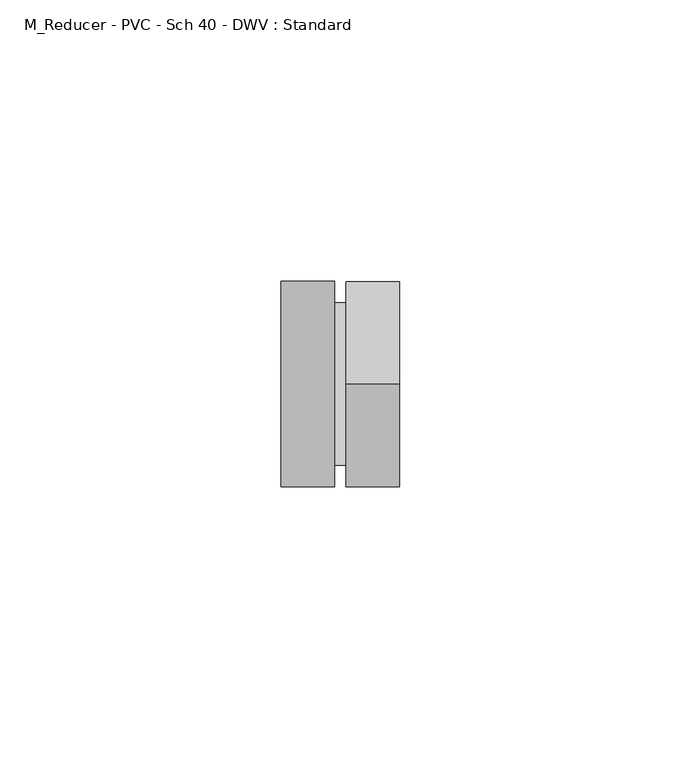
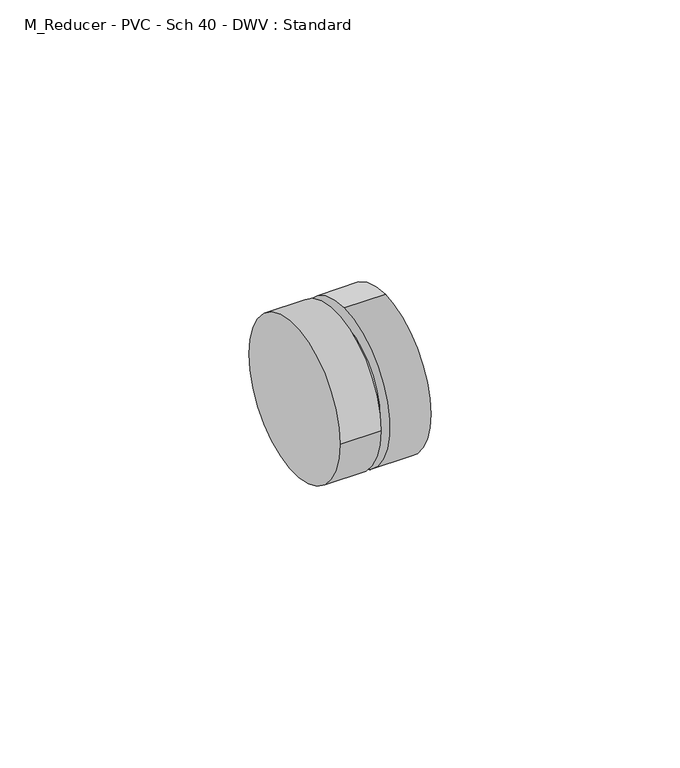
"""IFC4 building model written with IfcOpenShell, lengths in millimetres: pipe fitting geometry, M_Reducer - PVC - Sch 40 - DWV : Standard."""

from ifc_helpers import new_model, si_unit, frame, origin, place, context, project, spatial, polyline, circle_curve, source, transform, mapped, element, save
from ifc_brep_helpers import plane_surface, cylinder_surface, revolved_surface, advanced_brep


def m_reducer_pvc_sch_40_dwv_standard_9dac7d9e(model_context):
    return source(origin(), model_context, "Body", "AdvancedBrep", [
        advanced_brep(
        [(0.0, -18.2471094, 0.0), (0.0, 18.2471094, 0.0), (9.5, -18.2471094, 0.0), (9.5, 18.2471094, 0.0), (9.5, 14.4440625, 0.0), (9.5, -14.4440625, 0.0), (11.5385938, 14.4700625, 0.0), (11.5385937, -14.4700625, 0.0), (11.5385938, 0.0, 18.2741094), (11.5385938, 0.0, -18.2741094), (21.0635938, 0.0, 18.2741094), (21.0635938, 0.0, -18.2741094)],
        [
            (0, 1, circle_curve(frame((0.0, 0.0, 0.0), z_axis=(-1.0, 0.0, 0.0), x_axis=(0.0, 1.0, 0.0)), 18.2471094)),
            (1, 0, circle_curve(frame((0.0, 0.0, 0.0), z_axis=(-1.0, 0.0, 0.0), x_axis=(0.0, 1.0, 0.0)), 18.2471094)),
            (2, 3, circle_curve(frame((9.5, 0.0, 0.0), z_axis=(1.0, 0.0, 0.0), x_axis=(0.0, 1.0, 0.0)), 18.2471094)),
            (3, 2, circle_curve(frame((9.5, 0.0, 0.0), z_axis=(1.0, 0.0, 0.0), x_axis=(0.0, 1.0, 0.0)), 18.2471094)),
            (4, 5, circle_curve(frame((9.5, 0.0, 0.0), z_axis=(-1.0, 2.888309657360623e-12, 1.7718951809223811e-12), x_axis=(-2.890287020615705e-12, -1.0, 0.0)), 14.4440625)),
            (5, 4, circle_curve(frame((9.5, 0.0, 0.0), z_axis=(-1.0, 2.888309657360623e-12, 1.7718951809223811e-12), x_axis=(2.8902870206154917e-12, 1.0, 0.0)), 14.4440625)),
            (0, 2),
            (3, 1),
            (4, 6),
            (6, 7, circle_curve(frame((11.5385938, 0.0, 0.0), z_axis=(-1.0, 2.888309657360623e-12, 1.7718951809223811e-12), x_axis=(-2.890287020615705e-12, -1.0, 0.0)), 14.4700625)),
            (7, 5),
            (7, 6, circle_curve(frame((11.5385938, 0.0, 0.0), z_axis=(-1.0, 2.888309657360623e-12, 1.7718951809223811e-12), x_axis=(2.8902870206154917e-12, 1.0, 0.0)), 14.4700625)),
            (8, 9, circle_curve(frame((11.5385938, 0.0, 0.0), z_axis=(-1.0, 0.0, 0.0), x_axis=(0.0, 0.0, -1.0)), 18.2741094)),
            (9, 8, circle_curve(frame((11.5385938, 0.0, 0.0), z_axis=(-1.0, 0.0, 0.0), x_axis=(0.0, 0.0, -1.0)), 18.2741094)),
            (10, 11, circle_curve(frame((21.0635938, 0.0, 0.0), z_axis=(1.0, 0.0, 0.0), x_axis=(0.0, 0.0, -1.0)), 18.2741094)),
            (11, 10, circle_curve(frame((21.0635938, 0.0, 0.0), z_axis=(1.0, 0.0, 0.0), x_axis=(0.0, 0.0, -1.0)), 18.2741094)),
            (8, 10),
            (11, 9),
        ],
        [
            plane_surface(frame((0.0, 0.0, 0.0), z_axis=(-1.0, 0.0, 0.0), x_axis=(0.0, 0.0, 1.0))),
            plane_surface(frame((9.5, 0.0, 0.0), z_axis=(1.0, 0.0, 0.0), x_axis=(0.0, 0.0, 1.0))),
            cylinder_surface(frame((0.0, 0.0, 0.0), z_axis=(-1.0, 0.0, 0.0), x_axis=(0.0, 1.0, 0.0)), 18.2471094),
            revolved_surface(polyline([(9.5, 14.444062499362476, 0.0), (11.538593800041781, 14.470062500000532, 0.0)]), (-1123.022136, 0.0, 0.0), (1.0, -2.888309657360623e-12, -1.7718951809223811e-12)),
            plane_surface(frame((11.5385938, 0.0, 0.0), z_axis=(-1.0, 0.0, 0.0), x_axis=(0.0, 1.0, 0.0))),
            plane_surface(frame((21.0635938, 0.0, 0.0), z_axis=(1.0, 0.0, 0.0), x_axis=(0.0, 1.0, 0.0))),
            cylinder_surface(frame((11.5385938, 0.0, 0.0), z_axis=(-1.0, 0.0, 0.0), x_axis=(0.0, 0.0, -1.0)), 18.2741094),
        ],
        [
            (0, [[1, 2]]),
            (1, [[3, 4], [5, 6]]),
            (2, [[-1, 7, -4, 8]]),
            (2, [[-2, -8, -3, -7]]),
            (3, [[9, 10, 11, -5]]),
            (3, [[-9, -6, -11, 12]]),
            (4, [[13, 14], [-10, -12]]),
            (5, [[15, 16]]),
            (6, [[-13, 17, -16, 18]]),
            (6, [[-14, -18, -15, -17]]),
        ],
    ),
    ])


if __name__ == "__main__":
    model = new_model("IFC4")
    model_context = context("Model", 3, world=origin())
    ifc_project = project(units=[si_unit("LENGTHUNIT", "METRE", prefix="MILLI")], contexts=[model_context])
    site = spatial("IfcSite", under=ifc_project)
    building = spatial("IfcBuilding", under=site)
    placement = place(None, origin())
    m_reducer_pvc_sch_40_dwv_standard_shape = m_reducer_pvc_sch_40_dwv_standard_9dac7d9e(model_context)
    element("IfcPipeFitting", 1, ObjectType="M_Reducer - PVC - Sch 40 - DWV : Standard", at=placement, inside=building, context=model_context, shape_type="MappedRepresentation", body=[
        mapped(m_reducer_pvc_sch_40_dwv_standard_shape, transform((0.0, 0.0, 0.0), x_axis=(1.0, 0.0, 0.0), y_axis=(0.0, 1.0, 0.0), z_axis=(0.0, 0.0, 1.0))),
    ])
    save(model, "model.ifc")
